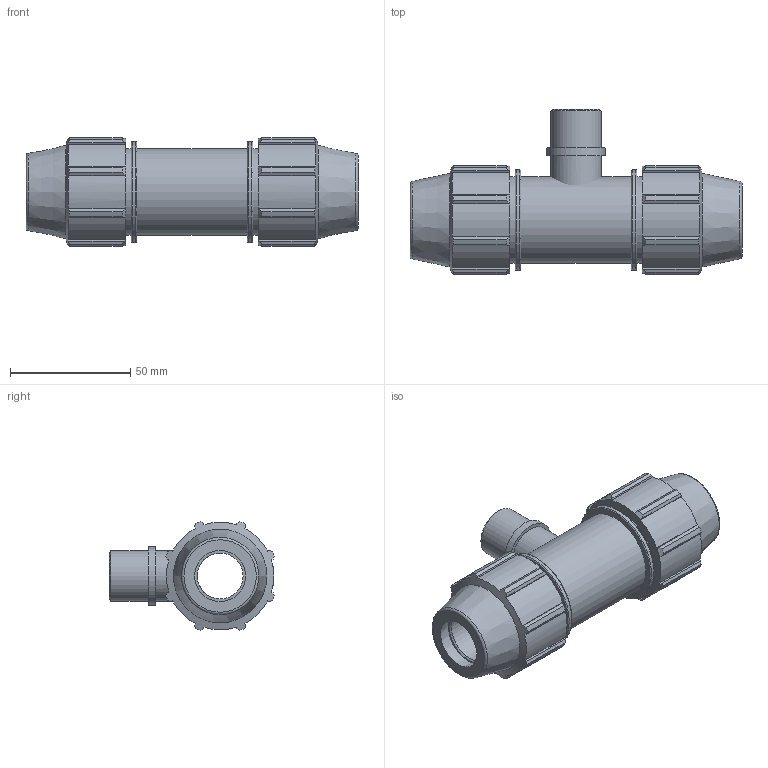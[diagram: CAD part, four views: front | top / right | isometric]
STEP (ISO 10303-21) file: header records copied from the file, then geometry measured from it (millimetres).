
FILE_DESCRIPTION(/* description */ ('PLASSON TEE WITH THREADED MALE OFFTAKE 1/2'''' - 1/2''''M - 1/2'''''),/* implementation_level */ '2;1');
FILE_NAME(/* name */ 'C:\Dropbox\KIMPROJECTS-Inventor 2019\99-16-3568-Processing Inch\ASTM Compression 2021\0784M0\0784M0005005.ipt.stp',/* time_stamp */ '2021-08-26T12:35:19+03:00',/* author */ ('Кирилл'),/* organization */ (''),/* preprocessor_version */ 'ST-DEVELOPER v17.2',/* originating_system */ 'Autodesk Inventor 2019',/* authorisation */ '');
FILE_SCHEMA (('AUTOMOTIVE_DESIGN { 1 0 10303 214 3 1 1 }'));
Length unit declared in the file: inch
Products named in the file (1): 0784M0005005
Bounding box: 137.92 x 68.56 x 45.17 mm (x, y, z)
Volume: 127861.7 mm3; surface area: 36426.3 mm2
Topology: 2 solids, 2 shells, 158 faces, 460 edges, 318 vertices
Faces by surface type: plane 81, cylinder 46, cone 25, torus 6
Full cylindrical faces by diameter (mm): 14.668 x2, 19.08 x1, 20.955 x2, 21.2 x2, 24.098 x1, 36.004 x3, 41.765 x2
Entity records: 5642 total; most frequent: CARTESIAN_POINT 1234, ORIENTED_EDGE 920, DIRECTION 876, EDGE_CURVE 460, AXIS2_PLACEMENT_3D 330, VERTEX_POINT 318, LINE 216, VECTOR 216
